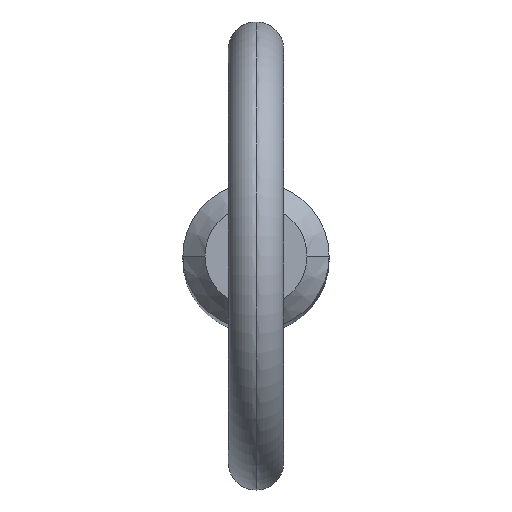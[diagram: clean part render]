
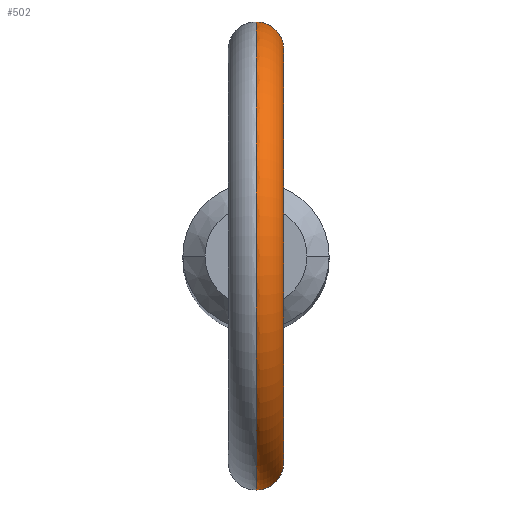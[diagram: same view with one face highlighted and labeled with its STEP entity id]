
A CAD part, top view. The second image highlights one B-rep face of the part: STEP entity #502.
In plain terms, the highlighted toroidal (fillet/blend) face has major radius 11.2 mm and minor radius 1.5 mm.
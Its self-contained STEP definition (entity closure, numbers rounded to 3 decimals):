
#4 = CARTESIAN_POINT ( 'NONE',  ( 0.949, 3.851, 105.049 ) ) ;
#6 = CARTESIAN_POINT ( 'NONE',  ( 0.927, 3.858, 107.567 ) ) ;
#7 = EDGE_CURVE ( 'NONE', #241, #427, #473, .T. ) ;
#8 = DIRECTION ( 'NONE',  ( 0., 0., -1. ) ) ;
#10 = CARTESIAN_POINT ( 'NONE',  ( 0., 3.965, 107.947 ) ) ;
#11 = ORIENTED_EDGE ( 'NONE', *, *, #477, .F. ) ;
#12 = CARTESIAN_POINT ( 'NONE',  ( 0., -3.965, 107.947 ) ) ;
#21 = CARTESIAN_POINT ( 'NONE',  ( 0.404, -3.946, 107.882 ) ) ;
#36 = CARTESIAN_POINT ( 'NONE',  ( 0.782, -3.888, 104.937 ) ) ;
#39 = CARTESIAN_POINT ( 'NONE',  ( 1.503, -3.669, 106.199 ) ) ;
#49 = CARTESIAN_POINT ( 'NONE',  ( 1.503, 3.669, 106.198 ) ) ;
#61 = AXIS2_PLACEMENT_3D ( 'NONE', #105, #66, #330 ) ;
#66 = DIRECTION ( 'NONE',  ( 1., 0., 0. ) ) ;
#77 = CARTESIAN_POINT ( 'NONE',  ( 1.499, -3.671, 106.097 ) ) ;
#82 = DIRECTION ( 'NONE',  ( 1., 0., 0. ) ) ;
#86 = CARTESIAN_POINT ( 'NONE',  ( 0., 0., 116.8 ) ) ;
#90 = CARTESIAN_POINT ( 'NONE',  ( 1.291, 3.75, 107.084 ) ) ;
#95 = EDGE_LOOP ( 'NONE', ( #11, #381, #113, #410 ) ) ;
#105 = CARTESIAN_POINT ( 'NONE',  ( 0., 0., 116.8 ) ) ;
#108 = CARTESIAN_POINT ( 'NONE',  ( 1.434, -3.697, 106.705 ) ) ;
#113 = ORIENTED_EDGE ( 'NONE', *, *, #387, .F. ) ;
#124 = FACE_OUTER_BOUND ( 'NONE', #95, .T. ) ;
#125 = CARTESIAN_POINT ( 'NONE',  ( 1.441, 3.695, 106.708 ) ) ;
#128 = CARTESIAN_POINT ( 'NONE',  ( 1.488, 3.675, 106.505 ) ) ;
#143 = TOROIDAL_SURFACE ( 'NONE', #513, 11.2, 1.5 ) ;
#149 = CARTESIAN_POINT ( 'NONE',  ( 1.471, -3.682, 105.894 ) ) ;
#155 = CARTESIAN_POINT ( 'NONE',  ( 0., -3.965, 104.735 ) ) ;
#156 = CARTESIAN_POINT ( 'NONE',  ( 0., -3.965, 104.735 ) ) ;
#158 = CARTESIAN_POINT ( 'NONE',  ( 1.493, -3.673, 106.404 ) ) ;
#161 = CARTESIAN_POINT ( 'NONE',  ( 0.204, 3.965, 104.735 ) ) ;
#170 = CARTESIAN_POINT ( 'NONE',  ( 0.41, 3.948, 104.774 ) ) ;
#194 = CARTESIAN_POINT ( 'NONE',  ( 1.028, -3.83, 105.115 ) ) ;
#202 = CARTESIAN_POINT ( 'NONE',  ( 1.291, -3.75, 107.083 ) ) ;
#204 = CARTESIAN_POINT ( 'NONE',  ( 1.404, -3.708, 106.801 ) ) ;
#206 = CARTESIAN_POINT ( 'NONE',  ( 0., 3.965, 107.947 ) ) ;
#211 = CARTESIAN_POINT ( 'NONE',  ( 1.447, 3.692, 105.793 ) ) ;
#213 = CARTESIAN_POINT ( 'NONE',  ( 1.499, 3.671, 106.094 ) ) ;
#226 = CARTESIAN_POINT ( 'NONE',  ( 0.77, -3.894, 107.7 ) ) ;
#228 = VERTEX_POINT ( 'NONE', #156 ) ;
#231 = B_SPLINE_CURVE_WITH_KNOTS ( 'NONE', 3,
 ( #437, #161, #170, #349, #386, #4, #290, #352, #430, #211, #292, #213, #49, #128, #125, #90, #393, #6, #485, #395, #252, #10 ),
 .UNSPECIFIED., .F., .F.,
 ( 4, 2, 2, 2, 2, 2, 2, 2, 2, 2, 4 ),
 ( 0.001, 0.001, 0.002, 0.002, 0.003, 0.003, 0.003, 0.004, 0.004, 0.005, 0.006 ),
 .UNSPECIFIED. ) ;
#237 = CARTESIAN_POINT ( 'NONE',  ( 1.479, -3.679, 106.507 ) ) ;
#241 = VERTEX_POINT ( 'NONE', #206 ) ;
#247 = DIRECTION ( 'NONE',  ( 1., 0., 0. ) ) ;
#252 = CARTESIAN_POINT ( 'NONE',  ( 0.206, 3.965, 107.947 ) ) ;
#259 = CARTESIAN_POINT ( 'NONE',  ( 0.102, -3.965, 107.947 ) ) ;
#263 = CARTESIAN_POINT ( 'NONE',  ( 0.205, -3.961, 107.934 ) ) ;
#276 = CARTESIAN_POINT ( 'NONE',  ( 1.346, -3.73, 105.508 ) ) ;
#285 = CARTESIAN_POINT ( 'NONE',  ( 0., -3.965, 107.947 ) ) ;
#288 = DIRECTION ( 'NONE',  ( 0., 0., -1. ) ) ;
#290 = CARTESIAN_POINT ( 'NONE',  ( 1.026, 3.831, 105.113 ) ) ;
#292 = CARTESIAN_POINT ( 'NONE',  ( 1.47, 3.682, 105.892 ) ) ;
#309 = CARTESIAN_POINT ( 'NONE',  ( 1.186, -3.786, 107.259 ) ) ;
#316 = VERTEX_POINT ( 'NONE', #475 ) ;
#330 = DIRECTION ( 'NONE',  ( 0., 0., -1. ) ) ;
#333 = EDGE_CURVE ( 'NONE', #316, #228, #355, .T. ) ;
#336 = CARTESIAN_POINT ( 'NONE',  ( 1.447, -3.692, 105.793 ) ) ;
#340 = CARTESIAN_POINT ( 'NONE',  ( 0.693, -3.905, 104.89 ) ) ;
#349 = CARTESIAN_POINT ( 'NONE',  ( 0.691, 3.905, 104.889 ) ) ;
#352 = CARTESIAN_POINT ( 'NONE',  ( 1.236, 3.77, 105.329 ) ) ;
#355 = CIRCLE ( 'NONE', #466, 12.7 ) ;
#374 = CARTESIAN_POINT ( 'NONE',  ( 0.205, -3.965, 104.735 ) ) ;
#381 = ORIENTED_EDGE ( 'NONE', *, *, #333, .T. ) ;
#386 = CARTESIAN_POINT ( 'NONE',  ( 0.782, 3.888, 104.937 ) ) ;
#387 = EDGE_CURVE ( 'NONE', #427, #228, #457, .T. ) ;
#393 = CARTESIAN_POINT ( 'NONE',  ( 1.185, 3.786, 107.26 ) ) ;
#395 = CARTESIAN_POINT ( 'NONE',  ( 0.411, 3.948, 107.891 ) ) ;
#410 = ORIENTED_EDGE ( 'NONE', *, *, #7, .F. ) ;
#418 = CARTESIAN_POINT ( 'NONE',  ( 1.237, -3.77, 105.331 ) ) ;
#427 = VERTEX_POINT ( 'NONE', #285 ) ;
#430 = CARTESIAN_POINT ( 'NONE',  ( 1.344, 3.731, 105.503 ) ) ;
#437 = CARTESIAN_POINT ( 'NONE',  ( 0., 3.965, 104.735 ) ) ;
#457 = B_SPLINE_CURVE_WITH_KNOTS ( 'NONE', 3,
 ( #12, #259, #263, #21, #459, #226, #498, #309, #202, #204, #108, #237, #158, #39, #77, #149, #336, #276, #418, #194, #507, #36, #340, #469, #374, #155 ),
 .UNSPECIFIED., .F., .F.,
 ( 4, 2, 2, 2, 2, 2, 2, 2, 2, 2, 2, 2, 4 ),
 ( 0.004, 0.005, 0.005, 0.005, 0.006, 0.006, 0.007, 0.007, 0.007, 0.008, 0.008, 0.008, 0.009 ),
 .UNSPECIFIED. ) ;
#459 = CARTESIAN_POINT ( 'NONE',  ( 0.498, -3.935, 107.844 ) ) ;
#466 = AXIS2_PLACEMENT_3D ( 'NONE', #86, #247, #8 ) ;
#469 = CARTESIAN_POINT ( 'NONE',  ( 0.409, -3.948, 104.774 ) ) ;
#473 = CIRCLE ( 'NONE', #61, 9.7 ) ;
#475 = CARTESIAN_POINT ( 'NONE',  ( 0., 3.965, 104.735 ) ) ;
#476 = CARTESIAN_POINT ( 'NONE',  ( 0., 0., 116.8 ) ) ;
#477 = EDGE_CURVE ( 'NONE', #316, #241, #231, .T. ) ;
#485 = CARTESIAN_POINT ( 'NONE',  ( 0.769, 3.894, 107.701 ) ) ;
#498 = CARTESIAN_POINT ( 'NONE',  ( 0.925, -3.858, 107.568 ) ) ;
#502 = ADVANCED_FACE ( 'NONE', ( #124 ), #143, .T. ) ;
#507 = CARTESIAN_POINT ( 'NONE',  ( 0.949, -3.851, 105.049 ) ) ;
#513 = AXIS2_PLACEMENT_3D ( 'NONE', #476, #82, #288 ) ;
